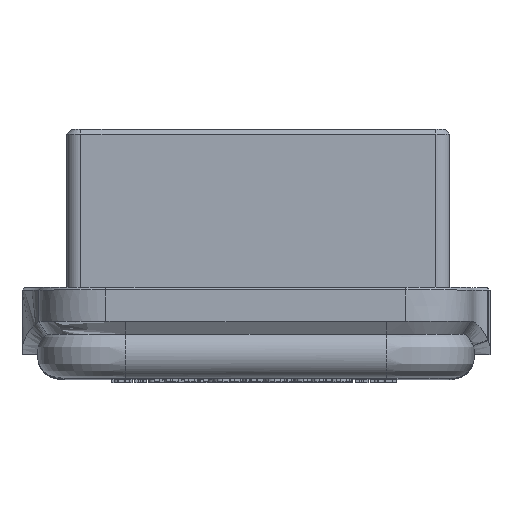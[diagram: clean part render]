
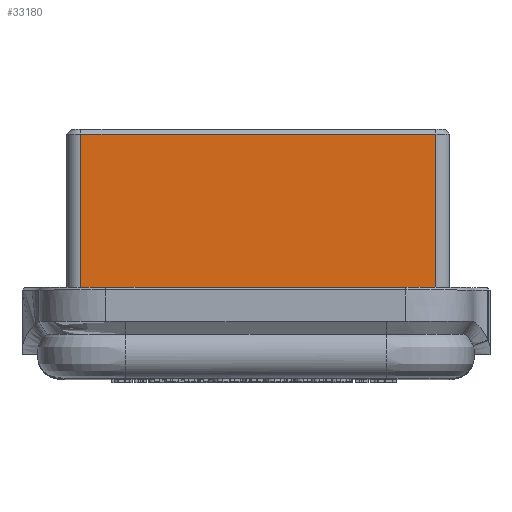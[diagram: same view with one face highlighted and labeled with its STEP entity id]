
A CAD part, top view. The second image highlights one B-rep face of the part: STEP entity #33180.
In plain terms, the highlighted planar face has unit normal (0, 0, 1).
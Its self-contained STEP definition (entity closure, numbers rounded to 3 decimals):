
#637=LINE('',#42576,#3598);
#656=LINE('',#42660,#3617);
#669=LINE('',#42691,#3630);
#2992=LINE('',#67997,#5953);
#3598=VECTOR('',#34604,10.);
#3617=VECTOR('',#34695,10.);
#3630=VECTOR('',#34734,10.);
#5953=VECTOR('',#38229,10.);
#7103=PLANE('',#34293);
#8688=FACE_OUTER_BOUND('',#10611,.T.);
#10611=EDGE_LOOP('',(#28914,#28915,#28916,#28917));
#12886=VERTEX_POINT('',#42573);
#12887=VERTEX_POINT('',#42575);
#12914=VERTEX_POINT('',#42652);
#12916=VERTEX_POINT('',#42658);
#16200=EDGE_CURVE('',#12887,#12886,#637,.F.);
#16242=EDGE_CURVE('',#12916,#12914,#656,.T.);
#16258=EDGE_CURVE('',#12914,#12886,#669,.T.);
#20268=EDGE_CURVE('',#12887,#12916,#2992,.T.);
#28914=ORIENTED_EDGE('',*,*,#16242,.F.);
#28915=ORIENTED_EDGE('',*,*,#20268,.F.);
#28916=ORIENTED_EDGE('',*,*,#16200,.T.);
#28917=ORIENTED_EDGE('',*,*,#16258,.F.);
#33180=ADVANCED_FACE('',(#8688),#7103,.T.);
#34293=AXIS2_PLACEMENT_3D('',#67998,#38230,#38231);
#34604=DIRECTION('',(-1.,0.,0.));
#34695=DIRECTION('',(1.,0.,0.));
#34734=DIRECTION('',(0.,-1.,0.));
#38229=DIRECTION('',(0.,1.,0.));
#38230=DIRECTION('center_axis',(0.,0.,
1.));
#38231=DIRECTION('ref_axis',(0.,-1.,0.));
#42573=CARTESIAN_POINT('',(24.992,-0.914,196.559));
#42575=CARTESIAN_POINT('',(-30.408,-0.914,196.559));
#42576=CARTESIAN_POINT('',(-17.839,-0.914,196.559));
#42652=CARTESIAN_POINT('',(24.992,23.036,196.559));
#42658=CARTESIAN_POINT('',(-30.408,23.036,196.559));
#42660=CARTESIAN_POINT('',(-33.555,23.036,196.559));
#42691=CARTESIAN_POINT('',(24.992,-0.914,196.559));
#67997=CARTESIAN_POINT('',(-30.408,-0.914,196.559));
#67998=CARTESIAN_POINT('Origin',(-32.708,-0.914,196.559));
